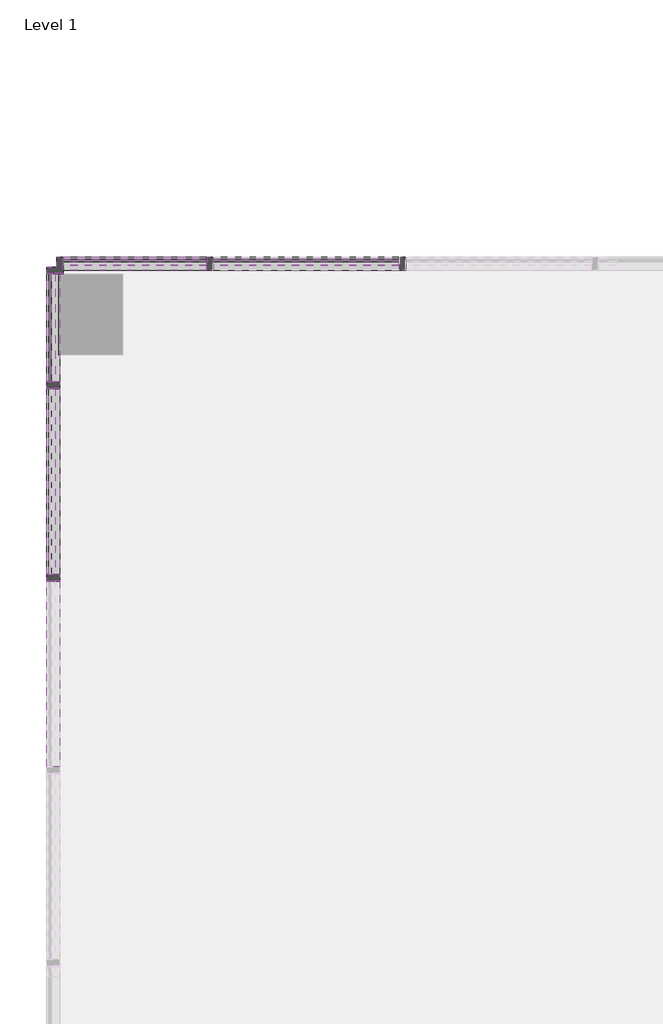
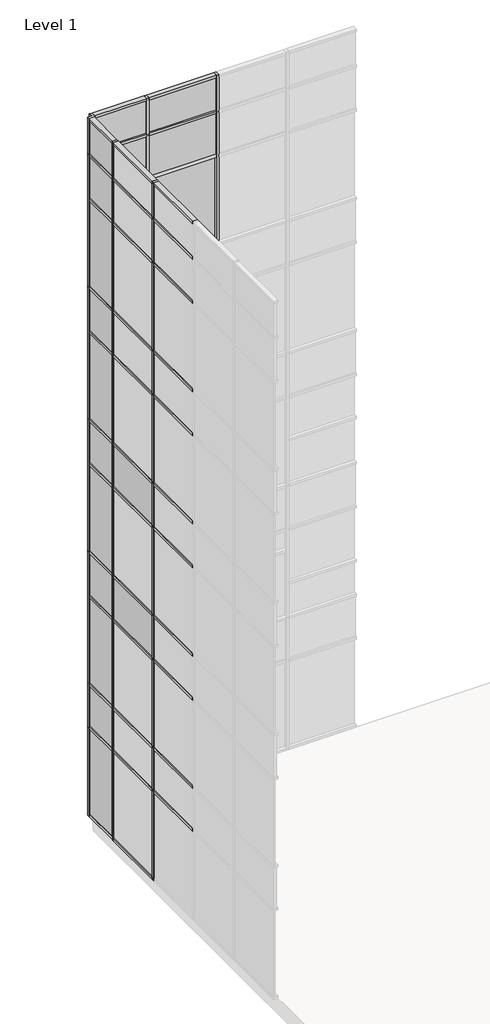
# One storey, part 10 of 23: 86 members, 36 plates.
"""IFC4 building model written with IfcOpenShell, lengths in millimetres."""

from ifc_helpers import new_model, si_unit, origin, place, context, project, spatial, transform, mapped, element, save
from components import member_2b49869a, member_f92b8aa2, member_810865a4, member_f0fea5a5, member_6d5c3e5e, member_9764dd38, member_79ceace6, member_b5f2627a, member_2a656dd3, member_4a582d1b, member_69e02c7a, member_ea83204a, member_2d9278dd, member_12374bc9, system_panel_glazed_14c75400, system_panel_glazed_7d142148, system_panel_glazed_725bf07f, system_panel_glazed_cda0cb40, system_panel_glazed_3870392c, system_panel_solid_5dfe6f83, system_panel_solid_e25e2004, system_panel_solid_b7551183, system_panel_solid_743f3f24, system_panel_solid_cf5446f1, system_panel_solid_9f856546, system_panel_solid_5118485c, system_panel_solid_8dfd6666, system_panel_solid_bf438204

model = new_model("IFC4")

# Units and contexts
model_context = context("Model", 3, world=origin())
ifc_project = project(units=[si_unit("LENGTHUNIT", "METRE", prefix="MILLI")], contexts=[model_context])

# Site, building, storey
site = spatial("IfcSite", under=ifc_project)
building = spatial("IfcBuilding", under=site)
storey = spatial("IfcBuildingStorey", under=building, Name="Level 1", Elevation=0.0)

# Members
placement = place(None, origin())
member_shape = member_2b49869a(model_context)
element("IfcMember", 1, ObjectType="Rectangular Mullion : 2.5\" x 5\" rectangular", at=placement, inside=storey, context=model_context, shape_type="MappedRepresentation", body=[
    mapped(member_shape, transform((-65405.8623649, 10017.7896508, 2438.4), x_axis=(1.0, 0.0, 0.0), y_axis=(0.0, -1.0, 0.0), z_axis=(0.0, 0.0, -1.0))),
])
element("IfcMember", 2, ObjectType="Rectangular Mullion : 2.5\" x 5\" rectangular", at=placement, inside=storey, context=model_context, shape_type="MappedRepresentation", body=[
    mapped(member_shape, transform((-67234.6623649, 10017.7896508, 2438.4), x_axis=(1.0, 0.0, 0.0), y_axis=(0.0, -1.0, 0.0), z_axis=(0.0, 0.0, -1.0))),
])
member_2_shape = member_f92b8aa2(model_context)
element("IfcMember", 3, ObjectType="Rectangular Mullion : 2.5\" x 5\" rectangular", at=placement, inside=storey, context=model_context, shape_type="MappedRepresentation", body=[
    mapped(member_2_shape, transform((-65405.8623649, 10017.7896508, 18288.0), x_axis=(1.0, 0.0, 0.0), y_axis=(0.0, -1.0, 0.0), z_axis=(0.0, 0.0, -1.0))),
])
element("IfcMember", 4, ObjectType="Rectangular Mullion : 2.5\" x 5\" rectangular", at=placement, inside=storey, context=model_context, shape_type="MappedRepresentation", body=[
    mapped(member_2_shape, transform((-67234.6623649, 10017.7896508, 18288.0), x_axis=(1.0, 0.0, 0.0), y_axis=(0.0, -1.0, 0.0), z_axis=(0.0, 0.0, -1.0))),
])
element("IfcMember", 5, ObjectType="Rectangular Mullion : 2.5\" x 5\" rectangular", at=placement, inside=storey, context=model_context, shape_type="MappedRepresentation", body=[
    mapped(member_2_shape, transform((-68724.2599961, 7033.2896508, 18288.0), x_axis=(0.0, 1.0, 0.0), y_axis=(1.0, 0.0, 0.0), z_axis=(0.0, 0.0, -1.0))),
])
element("IfcMember", 6, ObjectType="Rectangular Mullion : 2.5\" x 5\" rectangular", at=placement, inside=storey, context=model_context, shape_type="MappedRepresentation", body=[
    mapped(member_2_shape, transform((-68724.2599961, 8862.0896508, 18288.0), x_axis=(0.0, 1.0, 0.0), y_axis=(1.0, 0.0, 0.0), z_axis=(0.0, 0.0, -1.0))),
])
member_3_shape = member_810865a4(model_context)
element("IfcMember", 7, ObjectType="Rectangular Mullion : 2.5\" x 5\" rectangular", at=placement, inside=storey, context=model_context, shape_type="MappedRepresentation", body=[
    mapped(member_3_shape, transform((-65405.8623649, 10017.7896508, 14630.4), x_axis=(1.0, 0.0, 0.0), y_axis=(0.0, -1.0, 0.0), z_axis=(0.0, 0.0, -1.0))),
])
element("IfcMember", 8, ObjectType="Rectangular Mullion : 2.5\" x 5\" rectangular", at=placement, inside=storey, context=model_context, shape_type="MappedRepresentation", body=[
    mapped(member_3_shape, transform((-65405.8623649, 10017.7896508, 10972.8), x_axis=(1.0, 0.0, 0.0), y_axis=(0.0, -1.0, 0.0), z_axis=(0.0, 0.0, -1.0))),
])
element("IfcMember", 9, ObjectType="Rectangular Mullion : 2.5\" x 5\" rectangular", at=placement, inside=storey, context=model_context, shape_type="MappedRepresentation", body=[
    mapped(member_3_shape, transform((-65405.8623649, 10017.7896508, 7315.2), x_axis=(1.0, 0.0, 0.0), y_axis=(0.0, -1.0, 0.0), z_axis=(0.0, 0.0, -1.0))),
])
element("IfcMember", 10, ObjectType="Rectangular Mullion : 2.5\" x 5\" rectangular", at=placement, inside=storey, context=model_context, shape_type="MappedRepresentation", body=[
    mapped(member_3_shape, transform((-65405.8623649, 10017.7896508, 3657.6), x_axis=(1.0, 0.0, 0.0), y_axis=(0.0, -1.0, 0.0), z_axis=(0.0, 0.0, -1.0))),
])
element("IfcMember", 11, ObjectType="Rectangular Mullion : 2.5\" x 5\" rectangular", at=placement, inside=storey, context=model_context, shape_type="MappedRepresentation", body=[
    mapped(member_3_shape, transform((-67234.6623649, 10017.7896508, 14630.4), x_axis=(1.0, 0.0, 0.0), y_axis=(0.0, -1.0, 0.0), z_axis=(0.0, 0.0, -1.0))),
])
element("IfcMember", 12, ObjectType="Rectangular Mullion : 2.5\" x 5\" rectangular", at=placement, inside=storey, context=model_context, shape_type="MappedRepresentation", body=[
    mapped(member_3_shape, transform((-67234.6623649, 10017.7896508, 10972.8), x_axis=(1.0, 0.0, 0.0), y_axis=(0.0, -1.0, 0.0), z_axis=(0.0, 0.0, -1.0))),
])
element("IfcMember", 13, ObjectType="Rectangular Mullion : 2.5\" x 5\" rectangular", at=placement, inside=storey, context=model_context, shape_type="MappedRepresentation", body=[
    mapped(member_3_shape, transform((-67234.6623649, 10017.7896508, 7315.2), x_axis=(1.0, 0.0, 0.0), y_axis=(0.0, -1.0, 0.0), z_axis=(0.0, 0.0, -1.0))),
])
element("IfcMember", 14, ObjectType="Rectangular Mullion : 2.5\" x 5\" rectangular", at=placement, inside=storey, context=model_context, shape_type="MappedRepresentation", body=[
    mapped(member_3_shape, transform((-67234.6623649, 10017.7896508, 3657.6), x_axis=(1.0, 0.0, 0.0), y_axis=(0.0, -1.0, 0.0), z_axis=(0.0, 0.0, -1.0))),
])
element("IfcMember", 15, ObjectType="Rectangular Mullion : 2.5\" x 5\" rectangular", at=placement, inside=storey, context=model_context, shape_type="MappedRepresentation", body=[
    mapped(member_3_shape, transform((-68724.2599961, 7033.2896508, 3657.6), x_axis=(0.0, 1.0, 0.0), y_axis=(1.0, 0.0, 0.0), z_axis=(0.0, 0.0, -1.0))),
])
element("IfcMember", 16, ObjectType="Rectangular Mullion : 2.5\" x 5\" rectangular", at=placement, inside=storey, context=model_context, shape_type="MappedRepresentation", body=[
    mapped(member_3_shape, transform((-68724.2599961, 8862.0896508, 3657.6), x_axis=(0.0, 1.0, 0.0), y_axis=(1.0, 0.0, 0.0), z_axis=(0.0, 0.0, -1.0))),
])
element("IfcMember", 17, ObjectType="Rectangular Mullion : 2.5\" x 5\" rectangular", at=placement, inside=storey, context=model_context, shape_type="MappedRepresentation", body=[
    mapped(member_3_shape, transform((-68724.2599961, 7033.2896508, 7315.2), x_axis=(0.0, 1.0, 0.0), y_axis=(1.0, 0.0, 0.0), z_axis=(0.0, 0.0, -1.0))),
])
element("IfcMember", 18, ObjectType="Rectangular Mullion : 2.5\" x 5\" rectangular", at=placement, inside=storey, context=model_context, shape_type="MappedRepresentation", body=[
    mapped(member_3_shape, transform((-68724.2599961, 8862.0896508, 7315.2), x_axis=(0.0, 1.0, 0.0), y_axis=(1.0, 0.0, 0.0), z_axis=(0.0, 0.0, -1.0))),
])
element("IfcMember", 19, ObjectType="Rectangular Mullion : 2.5\" x 5\" rectangular", at=placement, inside=storey, context=model_context, shape_type="MappedRepresentation", body=[
    mapped(member_3_shape, transform((-68724.2599961, 7033.2896508, 10972.8), x_axis=(0.0, 1.0, 0.0), y_axis=(1.0, 0.0, 0.0), z_axis=(0.0, 0.0, -1.0))),
])
element("IfcMember", 20, ObjectType="Rectangular Mullion : 2.5\" x 5\" rectangular", at=placement, inside=storey, context=model_context, shape_type="MappedRepresentation", body=[
    mapped(member_3_shape, transform((-68724.2599961, 8862.0896508, 10972.8), x_axis=(0.0, 1.0, 0.0), y_axis=(1.0, 0.0, 0.0), z_axis=(0.0, 0.0, -1.0))),
])
element("IfcMember", 21, ObjectType="Rectangular Mullion : 2.5\" x 5\" rectangular", at=placement, inside=storey, context=model_context, shape_type="MappedRepresentation", body=[
    mapped(member_3_shape, transform((-68724.2599961, 7033.2896508, 14630.4), x_axis=(0.0, 1.0, 0.0), y_axis=(1.0, 0.0, 0.0), z_axis=(0.0, 0.0, -1.0))),
])
element("IfcMember", 22, ObjectType="Rectangular Mullion : 2.5\" x 5\" rectangular", at=placement, inside=storey, context=model_context, shape_type="MappedRepresentation", body=[
    mapped(member_3_shape, transform((-68724.2599961, 8862.0896508, 14630.4), x_axis=(0.0, 1.0, 0.0), y_axis=(1.0, 0.0, 0.0), z_axis=(0.0, 0.0, -1.0))),
])
member_4_shape = member_f0fea5a5(model_context)
element("IfcMember", 23, ObjectType="Rectangular Mullion : 2.5\" x 5\" rectangular", at=placement, inside=storey, context=model_context, shape_type="MappedRepresentation", body=[
    mapped(member_4_shape, transform((-65405.8623649, 10017.7896508, 0.0), x_axis=(1.0, 0.0, 0.0), y_axis=(0.0, -1.0, 0.0), z_axis=(0.0, 0.0, -1.0))),
])
element("IfcMember", 24, ObjectType="Rectangular Mullion : 2.5\" x 5\" rectangular", at=placement, inside=storey, context=model_context, shape_type="MappedRepresentation", body=[
    mapped(member_4_shape, transform((-67234.6623649, 10017.7896508, 0.0), x_axis=(1.0, 0.0, 0.0), y_axis=(0.0, -1.0, 0.0), z_axis=(0.0, 0.0, -1.0))),
])
member_5_shape = member_6d5c3e5e(model_context)
element("IfcMember", 25, ObjectType="Rectangular Mullion : 2.5\" x 5\" rectangular", at=placement, inside=storey, context=model_context, shape_type="MappedRepresentation", body=[
    mapped(member_5_shape, transform((-65437.6123649, 10017.7896508, 19304.0), x_axis=(0.0, 0.0, 1.0), y_axis=(0.0, -1.0, 0.0), z_axis=(1.0, 0.0, 0.0))),
])
element("IfcMember", 26, ObjectType="Rectangular Mullion : 2.5\" x 5\" rectangular", at=placement, inside=storey, context=model_context, shape_type="MappedRepresentation", body=[
    mapped(member_5_shape, transform((-68724.2599961, 7001.5396508, 19304.0), x_axis=(0.0, 0.0, 1.0), y_axis=(1.0, 0.0, 0.0), z_axis=(0.0, 1.0, 0.0))),
])
element("IfcMember", 27, ObjectType="Rectangular Mullion : 2.5\" x 5\" rectangular", at=placement, inside=storey, context=model_context, shape_type="MappedRepresentation", body=[
    mapped(member_5_shape, transform((-68724.2599961, 8830.3396508, 19304.0), x_axis=(0.0, 0.0, 1.0), y_axis=(1.0, 0.0, 0.0), z_axis=(0.0, 1.0, 0.0))),
])
member_6_shape = member_9764dd38(model_context)
element("IfcMember", 28, ObjectType="Rectangular Mullion : 2.5\" x 5\" rectangular", at=placement, inside=storey, context=model_context, shape_type="MappedRepresentation", body=[
    mapped(member_6_shape, transform((-68724.2599961, 8830.3396508, 17068.8), x_axis=(0.0, 0.0, 1.0), y_axis=(1.0, 0.0, 0.0), z_axis=(0.0, 1.0, 0.0))),
])
element("IfcMember", 29, ObjectType="Rectangular Mullion : 2.5\" x 5\" rectangular", at=placement, inside=storey, context=model_context, shape_type="MappedRepresentation", body=[
    mapped(member_6_shape, transform((-68724.2599961, 7001.5396508, 17068.8), x_axis=(0.0, 0.0, 1.0), y_axis=(1.0, 0.0, 0.0), z_axis=(0.0, 1.0, 0.0))),
])
element("IfcMember", 30, ObjectType="Rectangular Mullion : 2.5\" x 5\" rectangular", at=placement, inside=storey, context=model_context, shape_type="MappedRepresentation", body=[
    mapped(member_6_shape, transform((-68724.2599961, 8830.3396508, 13411.2), x_axis=(0.0, 0.0, 1.0), y_axis=(1.0, 0.0, 0.0), z_axis=(0.0, 1.0, 0.0))),
])
element("IfcMember", 31, ObjectType="Rectangular Mullion : 2.5\" x 5\" rectangular", at=placement, inside=storey, context=model_context, shape_type="MappedRepresentation", body=[
    mapped(member_6_shape, transform((-68724.2599961, 7001.5396508, 13411.2), x_axis=(0.0, 0.0, 1.0), y_axis=(1.0, 0.0, 0.0), z_axis=(0.0, 1.0, 0.0))),
])
element("IfcMember", 32, ObjectType="Rectangular Mullion : 2.5\" x 5\" rectangular", at=placement, inside=storey, context=model_context, shape_type="MappedRepresentation", body=[
    mapped(member_6_shape, transform((-68724.2599961, 8830.3396508, 9753.6), x_axis=(0.0, 0.0, 1.0), y_axis=(1.0, 0.0, 0.0), z_axis=(0.0, 1.0, 0.0))),
])
element("IfcMember", 33, ObjectType="Rectangular Mullion : 2.5\" x 5\" rectangular", at=placement, inside=storey, context=model_context, shape_type="MappedRepresentation", body=[
    mapped(member_6_shape, transform((-68724.2599961, 7001.5396508, 9753.6), x_axis=(0.0, 0.0, 1.0), y_axis=(1.0, 0.0, 0.0), z_axis=(0.0, 1.0, 0.0))),
])
element("IfcMember", 34, ObjectType="Rectangular Mullion : 2.5\" x 5\" rectangular", at=placement, inside=storey, context=model_context, shape_type="MappedRepresentation", body=[
    mapped(member_6_shape, transform((-68724.2599961, 8830.3396508, 6096.0), x_axis=(0.0, 0.0, 1.0), y_axis=(1.0, 0.0, 0.0), z_axis=(0.0, 1.0, 0.0))),
])
element("IfcMember", 35, ObjectType="Rectangular Mullion : 2.5\" x 5\" rectangular", at=placement, inside=storey, context=model_context, shape_type="MappedRepresentation", body=[
    mapped(member_6_shape, transform((-68724.2599961, 7001.5396508, 6096.0), x_axis=(0.0, 0.0, 1.0), y_axis=(1.0, 0.0, 0.0), z_axis=(0.0, 1.0, 0.0))),
])
element("IfcMember", 36, ObjectType="Rectangular Mullion : 2.5\" x 5\" rectangular", at=placement, inside=storey, context=model_context, shape_type="MappedRepresentation", body=[
    mapped(member_6_shape, transform((-68724.2599961, 8830.3396508, 2470.15), x_axis=(0.0, 0.0, 1.0), y_axis=(1.0, 0.0, 0.0), z_axis=(0.0, 1.0, 0.0))),
])
element("IfcMember", 37, ObjectType="Rectangular Mullion : 2.5\" x 5\" rectangular", at=placement, inside=storey, context=model_context, shape_type="MappedRepresentation", body=[
    mapped(member_6_shape, transform((-68724.2599961, 7001.5396508, 2470.15), x_axis=(0.0, 0.0, 1.0), y_axis=(1.0, 0.0, 0.0), z_axis=(0.0, 1.0, 0.0))),
])
element("IfcMember", 38, ObjectType="Rectangular Mullion : 2.5\" x 5\" rectangular", at=placement, inside=storey, context=model_context, shape_type="MappedRepresentation", body=[
    mapped(member_3_shape, transform((-68724.2599961, 7033.2896508, 0.0), x_axis=(0.0, 1.0, 0.0), y_axis=(1.0, 0.0, 0.0), z_axis=(0.0, 0.0, -1.0))),
])
element("IfcMember", 39, ObjectType="Rectangular Mullion : 2.5\" x 5\" rectangular", at=placement, inside=storey, context=model_context, shape_type="MappedRepresentation", body=[
    mapped(member_3_shape, transform((-68724.2599961, 8862.0896508, 0.0), x_axis=(0.0, 1.0, 0.0), y_axis=(1.0, 0.0, 0.0), z_axis=(0.0, 0.0, -1.0))),
])
element("IfcMember", 40, ObjectType="Rectangular Mullion : 2.5\" x 5\" rectangular", at=placement, inside=storey, context=model_context, shape_type="MappedRepresentation", body=[
    mapped(member_5_shape, transform((-67202.9123649, 10017.7896508, 0.0), x_axis=(0.0, 0.0, -1.0), y_axis=(0.0, -1.0, 0.0), z_axis=(-1.0, 0.0, 0.0))),
])
element("IfcMember", 41, ObjectType="Rectangular Mullion : 2.5\" x 5\" rectangular", at=placement, inside=storey, context=model_context, shape_type="MappedRepresentation", body=[
    mapped(member_5_shape, transform((-68724.2599961, 7065.0396508, 0.0), x_axis=(0.0, 0.0, -1.0), y_axis=(1.0, 0.0, 0.0), z_axis=(0.0, -1.0, 0.0))),
])
element("IfcMember", 42, ObjectType="Rectangular Mullion : 2.5\" x 5\" rectangular", at=placement, inside=storey, context=model_context, shape_type="MappedRepresentation", body=[
    mapped(member_6_shape, transform((-65437.6123649, 10017.7896508, 10972.8), x_axis=(0.0, 0.0, 1.0), y_axis=(0.0, -1.0, 0.0), z_axis=(1.0, 0.0, 0.0))),
])
element("IfcMember", 43, ObjectType="Rectangular Mullion : 2.5\" x 5\" rectangular", at=placement, inside=storey, context=model_context, shape_type="MappedRepresentation", body=[
    mapped(member_6_shape, transform((-65437.6123649, 10017.7896508, 7315.2), x_axis=(0.0, 0.0, 1.0), y_axis=(0.0, -1.0, 0.0), z_axis=(1.0, 0.0, 0.0))),
])
element("IfcMember", 44, ObjectType="Rectangular Mullion : 2.5\" x 5\" rectangular", at=placement, inside=storey, context=model_context, shape_type="MappedRepresentation", body=[
    mapped(member_6_shape, transform((-65437.6123649, 10017.7896508, 18288.0), x_axis=(0.0, 0.0, 1.0), y_axis=(0.0, -1.0, 0.0), z_axis=(1.0, 0.0, 0.0))),
])
element("IfcMember", 45, ObjectType="Rectangular Mullion : 2.5\" x 5\" rectangular", at=placement, inside=storey, context=model_context, shape_type="MappedRepresentation", body=[
    mapped(member_6_shape, transform((-65437.6123649, 10017.7896508, 14630.4), x_axis=(0.0, 0.0, 1.0), y_axis=(0.0, -1.0, 0.0), z_axis=(1.0, 0.0, 0.0))),
])
element("IfcMember", 46, ObjectType="Rectangular Mullion : 2.5\" x 5\" rectangular", at=placement, inside=storey, context=model_context, shape_type="MappedRepresentation", body=[
    mapped(member_6_shape, transform((-68724.2599961, 7001.5396508, 3657.6), x_axis=(0.0, 0.0, 1.0), y_axis=(1.0, 0.0, 0.0), z_axis=(0.0, 1.0, 0.0))),
])
element("IfcMember", 47, ObjectType="Rectangular Mullion : 2.5\" x 5\" rectangular", at=placement, inside=storey, context=model_context, shape_type="MappedRepresentation", body=[
    mapped(member_6_shape, transform((-68724.2599961, 8830.3396508, 3657.6), x_axis=(0.0, 0.0, 1.0), y_axis=(1.0, 0.0, 0.0), z_axis=(0.0, 1.0, 0.0))),
])
element("IfcMember", 48, ObjectType="Rectangular Mullion : 2.5\" x 5\" rectangular", at=placement, inside=storey, context=model_context, shape_type="MappedRepresentation", body=[
    mapped(member_6_shape, transform((-68724.2599961, 7001.5396508, 7315.2), x_axis=(0.0, 0.0, 1.0), y_axis=(1.0, 0.0, 0.0), z_axis=(0.0, 1.0, 0.0))),
])
element("IfcMember", 49, ObjectType="Rectangular Mullion : 2.5\" x 5\" rectangular", at=placement, inside=storey, context=model_context, shape_type="MappedRepresentation", body=[
    mapped(member_6_shape, transform((-68724.2599961, 8830.3396508, 7315.2), x_axis=(0.0, 0.0, 1.0), y_axis=(1.0, 0.0, 0.0), z_axis=(0.0, 1.0, 0.0))),
])
element("IfcMember", 50, ObjectType="Rectangular Mullion : 2.5\" x 5\" rectangular", at=placement, inside=storey, context=model_context, shape_type="MappedRepresentation", body=[
    mapped(member_6_shape, transform((-68724.2599961, 7001.5396508, 10972.8), x_axis=(0.0, 0.0, 1.0), y_axis=(1.0, 0.0, 0.0), z_axis=(0.0, 1.0, 0.0))),
])
element("IfcMember", 51, ObjectType="Rectangular Mullion : 2.5\" x 5\" rectangular", at=placement, inside=storey, context=model_context, shape_type="MappedRepresentation", body=[
    mapped(member_6_shape, transform((-68724.2599961, 8830.3396508, 10972.8), x_axis=(0.0, 0.0, 1.0), y_axis=(1.0, 0.0, 0.0), z_axis=(0.0, 1.0, 0.0))),
])
element("IfcMember", 52, ObjectType="Rectangular Mullion : 2.5\" x 5\" rectangular", at=placement, inside=storey, context=model_context, shape_type="MappedRepresentation", body=[
    mapped(member_6_shape, transform((-68724.2599961, 7001.5396508, 14630.4), x_axis=(0.0, 0.0, 1.0), y_axis=(1.0, 0.0, 0.0), z_axis=(0.0, 1.0, 0.0))),
])
element("IfcMember", 53, ObjectType="Rectangular Mullion : 2.5\" x 5\" rectangular", at=placement, inside=storey, context=model_context, shape_type="MappedRepresentation", body=[
    mapped(member_6_shape, transform((-68724.2599961, 8830.3396508, 14630.4), x_axis=(0.0, 0.0, 1.0), y_axis=(1.0, 0.0, 0.0), z_axis=(0.0, 1.0, 0.0))),
])
element("IfcMember", 54, ObjectType="Rectangular Mullion : 2.5\" x 5\" rectangular", at=placement, inside=storey, context=model_context, shape_type="MappedRepresentation", body=[
    mapped(member_6_shape, transform((-68724.2599961, 7001.5396508, 18288.0), x_axis=(0.0, 0.0, 1.0), y_axis=(1.0, 0.0, 0.0), z_axis=(0.0, 1.0, 0.0))),
])
element("IfcMember", 55, ObjectType="Rectangular Mullion : 2.5\" x 5\" rectangular", at=placement, inside=storey, context=model_context, shape_type="MappedRepresentation", body=[
    mapped(member_6_shape, transform((-68724.2599961, 8830.3396508, 18288.0), x_axis=(0.0, 0.0, 1.0), y_axis=(1.0, 0.0, 0.0), z_axis=(0.0, 1.0, 0.0))),
])
member_7_shape = member_79ceace6(model_context)
element("IfcMember", 56, ObjectType="Rectangular Mullion : 2.5\" x 5\" rectangular", at=placement, inside=storey, context=model_context, shape_type="MappedRepresentation", body=[
    mapped(member_7_shape, transform((-68724.2599961, 9922.5396508, 19304.0), x_axis=(0.0, 0.0, 1.0), y_axis=(1.0, 0.0, 0.0), z_axis=(0.0, 1.0, 0.0))),
])
element("IfcMember", 57, ObjectType="Rectangular Mullion : 2.5\" x 5\" rectangular", at=placement, inside=storey, context=model_context, shape_type="MappedRepresentation", body=[
    mapped(member_7_shape, transform((-68724.2599961, 8893.8396508, 0.0), x_axis=(0.0, 0.0, -1.0), y_axis=(1.0, 0.0, 0.0), z_axis=(0.0, -1.0, 0.0))),
])
member_8_shape = member_b5f2627a(model_context)
element("IfcMember", 58, ObjectType="Rectangular Mullion : 2.5\" x 5\" rectangular", at=placement, inside=storey, context=model_context, shape_type="MappedRepresentation", body=[
    mapped(member_8_shape, transform((-68724.2599961, 9922.5396508, 3657.6), x_axis=(0.0, 0.0, 1.0), y_axis=(1.0, 0.0, 0.0), z_axis=(0.0, 1.0, 0.0))),
])
element("IfcMember", 59, ObjectType="Rectangular Mullion : 2.5\" x 5\" rectangular", at=placement, inside=storey, context=model_context, shape_type="MappedRepresentation", body=[
    mapped(member_8_shape, transform((-68724.2599961, 9922.5396508, 7315.2), x_axis=(0.0, 0.0, 1.0), y_axis=(1.0, 0.0, 0.0), z_axis=(0.0, 1.0, 0.0))),
])
element("IfcMember", 60, ObjectType="Rectangular Mullion : 2.5\" x 5\" rectangular", at=placement, inside=storey, context=model_context, shape_type="MappedRepresentation", body=[
    mapped(member_8_shape, transform((-68724.2599961, 9922.5396508, 10972.8), x_axis=(0.0, 0.0, 1.0), y_axis=(1.0, 0.0, 0.0), z_axis=(0.0, 1.0, 0.0))),
])
element("IfcMember", 61, ObjectType="Rectangular Mullion : 2.5\" x 5\" rectangular", at=placement, inside=storey, context=model_context, shape_type="MappedRepresentation", body=[
    mapped(member_8_shape, transform((-68724.2599961, 9922.5396508, 14630.4), x_axis=(0.0, 0.0, 1.0), y_axis=(1.0, 0.0, 0.0), z_axis=(0.0, 1.0, 0.0))),
])
element("IfcMember", 62, ObjectType="Rectangular Mullion : 2.5\" x 5\" rectangular", at=placement, inside=storey, context=model_context, shape_type="MappedRepresentation", body=[
    mapped(member_8_shape, transform((-68724.2599961, 9922.5396508, 18288.0), x_axis=(0.0, 0.0, 1.0), y_axis=(1.0, 0.0, 0.0), z_axis=(0.0, 1.0, 0.0))),
])
element("IfcMember", 63, ObjectType="Rectangular Mullion : 2.5\" x 5\" rectangular", at=placement, inside=storey, context=model_context, shape_type="MappedRepresentation", body=[
    mapped(member_8_shape, transform((-68724.2599961, 9922.5396508, 17068.8), x_axis=(0.0, 0.0, 1.0), y_axis=(1.0, 0.0, 0.0), z_axis=(0.0, 1.0, 0.0))),
])
element("IfcMember", 64, ObjectType="Rectangular Mullion : 2.5\" x 5\" rectangular", at=placement, inside=storey, context=model_context, shape_type="MappedRepresentation", body=[
    mapped(member_8_shape, transform((-68724.2599961, 9922.5396508, 13411.2), x_axis=(0.0, 0.0, 1.0), y_axis=(1.0, 0.0, 0.0), z_axis=(0.0, 1.0, 0.0))),
])
element("IfcMember", 65, ObjectType="Rectangular Mullion : 2.5\" x 5\" rectangular", at=placement, inside=storey, context=model_context, shape_type="MappedRepresentation", body=[
    mapped(member_8_shape, transform((-68724.2599961, 9922.5396508, 9753.6), x_axis=(0.0, 0.0, 1.0), y_axis=(1.0, 0.0, 0.0), z_axis=(0.0, 1.0, 0.0))),
])
element("IfcMember", 66, ObjectType="Rectangular Mullion : 2.5\" x 5\" rectangular", at=placement, inside=storey, context=model_context, shape_type="MappedRepresentation", body=[
    mapped(member_8_shape, transform((-68724.2599961, 9922.5396508, 6096.0), x_axis=(0.0, 0.0, 1.0), y_axis=(1.0, 0.0, 0.0), z_axis=(0.0, 1.0, 0.0))),
])
element("IfcMember", 67, ObjectType="Rectangular Mullion : 2.5\" x 5\" rectangular", at=placement, inside=storey, context=model_context, shape_type="MappedRepresentation", body=[
    mapped(member_8_shape, transform((-68724.2599961, 9922.5396508, 2470.15), x_axis=(0.0, 0.0, 1.0), y_axis=(1.0, 0.0, 0.0), z_axis=(0.0, 1.0, 0.0))),
])
member_9_shape = member_2a656dd3(model_context)
element("IfcMember", 68, ObjectType="Rectangular Mullion : 2.5\" x 5\" rectangular", at=placement, inside=storey, context=model_context, shape_type="MappedRepresentation", body=[
    mapped(member_9_shape, transform((-68629.0099961, 10017.7896508, 0.0), x_axis=(0.0, 0.0, -1.0), y_axis=(0.0, -1.0, 0.0), z_axis=(-1.0, 0.0, 0.0))),
])
member_10_shape = member_4a582d1b(model_context)
element("IfcMember", 69, ObjectType="Rectangular Mullion : 2.5\" x 5\" rectangular", at=placement, inside=storey, context=model_context, shape_type="MappedRepresentation", body=[
    mapped(member_10_shape, transform((-67266.4123649, 10017.7896508, 10972.8), x_axis=(0.0, 0.0, 1.0), y_axis=(0.0, -1.0, 0.0), z_axis=(1.0, 0.0, 0.0))),
])
element("IfcMember", 70, ObjectType="Rectangular Mullion : 2.5\" x 5\" rectangular", at=placement, inside=storey, context=model_context, shape_type="MappedRepresentation", body=[
    mapped(member_10_shape, transform((-67266.4123649, 10017.7896508, 14630.4), x_axis=(0.0, 0.0, 1.0), y_axis=(0.0, -1.0, 0.0), z_axis=(1.0, 0.0, 0.0))),
])
element("IfcMember", 71, ObjectType="Rectangular Mullion : 2.5\" x 5\" rectangular", at=placement, inside=storey, context=model_context, shape_type="MappedRepresentation", body=[
    mapped(member_10_shape, transform((-67266.4123649, 10017.7896508, 7315.2), x_axis=(0.0, 0.0, 1.0), y_axis=(0.0, -1.0, 0.0), z_axis=(1.0, 0.0, 0.0))),
])
element("IfcMember", 72, ObjectType="Rectangular Mullion : 2.5\" x 5\" rectangular", at=placement, inside=storey, context=model_context, shape_type="MappedRepresentation", body=[
    mapped(member_10_shape, transform((-67266.4123649, 10017.7896508, 18288.0), x_axis=(0.0, 0.0, 1.0), y_axis=(0.0, -1.0, 0.0), z_axis=(1.0, 0.0, 0.0))),
])
element("IfcMember", 73, ObjectType="Rectangular Mullion : 2.5\" x 5\" rectangular", at=placement, inside=storey, context=model_context, shape_type="MappedRepresentation", body=[
    mapped(member_10_shape, transform((-67266.4123649, 10017.7896508, 3657.6), x_axis=(0.0, 0.0, 1.0), y_axis=(0.0, -1.0, 0.0), z_axis=(1.0, 0.0, 0.0))),
])
element("IfcMember", 74, ObjectType="Rectangular Mullion : 2.5\" x 5\" rectangular", at=placement, inside=storey, context=model_context, shape_type="MappedRepresentation", body=[
    mapped(member_9_shape, transform((-67266.4123649, 10017.7896508, 19304.0), x_axis=(0.0, 0.0, 1.0), y_axis=(0.0, -1.0, 0.0), z_axis=(1.0, 0.0, 0.0))),
])
element("IfcMember", 75, ObjectType="Rectangular Mullion : 2.5\" x 5\" rectangular", at=placement, inside=storey, context=model_context, shape_type="MappedRepresentation", body=[
    mapped(member_10_shape, transform((-67266.4123649, 10017.7896508, 17068.8), x_axis=(0.0, 0.0, 1.0), y_axis=(0.0, -1.0, 0.0), z_axis=(1.0, 0.0, 0.0))),
])
element("IfcMember", 76, ObjectType="Rectangular Mullion : 2.5\" x 5\" rectangular", at=placement, inside=storey, context=model_context, shape_type="MappedRepresentation", body=[
    mapped(member_10_shape, transform((-67266.4123649, 10017.7896508, 13411.2), x_axis=(0.0, 0.0, 1.0), y_axis=(0.0, -1.0, 0.0), z_axis=(1.0, 0.0, 0.0))),
])
element("IfcMember", 77, ObjectType="Rectangular Mullion : 2.5\" x 5\" rectangular", at=placement, inside=storey, context=model_context, shape_type="MappedRepresentation", body=[
    mapped(member_10_shape, transform((-67266.4123649, 10017.7896508, 9753.6), x_axis=(0.0, 0.0, 1.0), y_axis=(0.0, -1.0, 0.0), z_axis=(1.0, 0.0, 0.0))),
])
element("IfcMember", 78, ObjectType="Rectangular Mullion : 2.5\" x 5\" rectangular", at=placement, inside=storey, context=model_context, shape_type="MappedRepresentation", body=[
    mapped(member_10_shape, transform((-67266.4123649, 10017.7896508, 6096.0), x_axis=(0.0, 0.0, 1.0), y_axis=(0.0, -1.0, 0.0), z_axis=(1.0, 0.0, 0.0))),
])
element("IfcMember", 79, ObjectType="Rectangular Mullion : 2.5\" x 5\" rectangular", at=placement, inside=storey, context=model_context, shape_type="MappedRepresentation", body=[
    mapped(member_10_shape, transform((-67266.4123649, 10017.7896508, 2470.15), x_axis=(0.0, 0.0, 1.0), y_axis=(0.0, -1.0, 0.0), z_axis=(1.0, 0.0, 0.0))),
])
member_11_shape = member_69e02c7a(model_context)
element("IfcMember", 80, ObjectType="V Corner Mullion : 5\" V Corner", at=placement, inside=storey, context=model_context, shape_type="MappedRepresentation", body=[
    mapped(member_11_shape, transform((-68724.2599961, 10017.7896508, 19304.0), x_axis=(-1.0, 0.0, 0.0), y_axis=(0.0, -1.0, 0.0), z_axis=(0.0, 0.0, 1.0))),
])
member_12_shape = member_ea83204a(model_context)
element("IfcMember", 81, ObjectType="V Corner Mullion : 5\" V Corner", at=placement, inside=storey, context=model_context, shape_type="MappedRepresentation", body=[
    mapped(member_12_shape, transform((-68724.2599961, 10017.7896508, 2438.4), x_axis=(-1.0, 0.0, 0.0), y_axis=(0.0, -1.0, 0.0), z_axis=(0.0, 0.0, 1.0))),
])
member_13_shape = member_2d9278dd(model_context)
element("IfcMember", 82, ObjectType="V Corner Mullion : 5\" V Corner", at=placement, inside=storey, context=model_context, shape_type="MappedRepresentation", body=[
    mapped(member_13_shape, transform((-68724.2599961, 10017.7896508, 18288.0), x_axis=(-1.0, 0.0, 0.0), y_axis=(0.0, -1.0, 0.0), z_axis=(0.0, 0.0, 1.0))),
])
element("IfcMember", 83, ObjectType="V Corner Mullion : 5\" V Corner", at=placement, inside=storey, context=model_context, shape_type="MappedRepresentation", body=[
    mapped(member_13_shape, transform((-68724.2599961, 10017.7896508, 14630.4), x_axis=(-1.0, 0.0, 0.0), y_axis=(0.0, -1.0, 0.0), z_axis=(0.0, 0.0, 1.0))),
])
element("IfcMember", 84, ObjectType="V Corner Mullion : 5\" V Corner", at=placement, inside=storey, context=model_context, shape_type="MappedRepresentation", body=[
    mapped(member_13_shape, transform((-68724.2599961, 10017.7896508, 10972.8), x_axis=(-1.0, 0.0, 0.0), y_axis=(0.0, -1.0, 0.0), z_axis=(0.0, 0.0, 1.0))),
])
element("IfcMember", 85, ObjectType="V Corner Mullion : 5\" V Corner", at=placement, inside=storey, context=model_context, shape_type="MappedRepresentation", body=[
    mapped(member_13_shape, transform((-68724.2599961, 10017.7896508, 7315.2), x_axis=(-1.0, 0.0, 0.0), y_axis=(0.0, -1.0, 0.0), z_axis=(0.0, 0.0, 1.0))),
])
member_14_shape = member_12374bc9(model_context)
element("IfcMember", 86, ObjectType="V Corner Mullion : 5\" V Corner", at=placement, inside=storey, context=model_context, shape_type="MappedRepresentation", body=[
    mapped(member_14_shape, transform((-68724.2599961, 10017.7896508, 3657.6), x_axis=(-1.0, 0.0, 0.0), y_axis=(0.0, -1.0, 0.0), z_axis=(0.0, 0.0, 1.0))),
])

# Plates
system_panel_glazed_shape = system_panel_glazed_14c75400(model_context)
element("IfcPlate", 87, ObjectType="System Panel : Glazed", at=placement, inside=storey, context=model_context, shape_type="MappedRepresentation", body=[
    mapped(system_panel_glazed_shape, transform((-66320.2623649, 10017.7896508, 14662.15), x_axis=(1.0, 0.0, 0.0), y_axis=(0.0, 1.0, 0.0), z_axis=(0.0, 0.0, 1.0))),
])
element("IfcPlate", 88, ObjectType="System Panel : Glazed", at=placement, inside=storey, context=model_context, shape_type="MappedRepresentation", body=[
    mapped(system_panel_glazed_shape, transform((-66320.2623649, 10017.7896508, 11004.55), x_axis=(1.0, 0.0, 0.0), y_axis=(0.0, 1.0, 0.0), z_axis=(0.0, 0.0, 1.0))),
])
element("IfcPlate", 89, ObjectType="System Panel : Glazed", at=placement, inside=storey, context=model_context, shape_type="MappedRepresentation", body=[
    mapped(system_panel_glazed_shape, transform((-66320.2623649, 10017.7896508, 7346.95), x_axis=(1.0, 0.0, 0.0), y_axis=(0.0, 1.0, 0.0), z_axis=(0.0, 0.0, 1.0))),
])
element("IfcPlate", 90, ObjectType="System Panel : Glazed", at=placement, inside=storey, context=model_context, shape_type="MappedRepresentation", body=[
    mapped(system_panel_glazed_shape, transform((-66320.2623649, 10017.7896508, 63.5), x_axis=(1.0, 0.0, 0.0), y_axis=(0.0, 1.0, 0.0), z_axis=(0.0, 0.0, 1.0))),
])
system_panel_glazed_2_shape = system_panel_glazed_7d142148(model_context)
element("IfcPlate", 91, ObjectType="System Panel : Glazed", at=placement, inside=storey, context=model_context, shape_type="MappedRepresentation", body=[
    mapped(system_panel_glazed_2_shape, transform((-66320.2623649, 10017.7896508, 3689.35), x_axis=(1.0, 0.0, 0.0), y_axis=(0.0, 1.0, 0.0), z_axis=(0.0, 0.0, 1.0))),
])
system_panel_glazed_3_shape = system_panel_glazed_725bf07f(model_context)
element("IfcPlate", 92, ObjectType="System Panel : Glazed", at=placement, inside=storey, context=model_context, shape_type="MappedRepresentation", body=[
    mapped(system_panel_glazed_3_shape, transform((-66320.2623649, 10017.7896508, 4635.5), x_axis=(1.0, 0.0, 0.0), y_axis=(0.0, 1.0, 0.0), z_axis=(0.0, 0.0, 1.0))),
])
system_panel_glazed_4_shape = system_panel_glazed_cda0cb40(model_context)
element("IfcPlate", 93, ObjectType="System Panel : Glazed", at=placement, inside=storey, context=model_context, shape_type="MappedRepresentation", body=[
    mapped(system_panel_glazed_4_shape, transform((-68724.2599961, 9408.1896508, 14662.15), x_axis=(0.0, 1.0, 0.0), y_axis=(-1.0, 0.0, 0.0), z_axis=(0.0, 0.0, 1.0))),
])
element("IfcPlate", 94, ObjectType="System Panel : Glazed", at=placement, inside=storey, context=model_context, shape_type="MappedRepresentation", body=[
    mapped(system_panel_glazed_4_shape, transform((-68724.2599961, 9408.1896508, 11004.55), x_axis=(0.0, 1.0, 0.0), y_axis=(-1.0, 0.0, 0.0), z_axis=(0.0, 0.0, 1.0))),
])
element("IfcPlate", 95, ObjectType="System Panel : Glazed", at=placement, inside=storey, context=model_context, shape_type="MappedRepresentation", body=[
    mapped(system_panel_glazed_4_shape, transform((-68724.2599961, 9408.1896508, 7346.95), x_axis=(0.0, 1.0, 0.0), y_axis=(-1.0, 0.0, 0.0), z_axis=(0.0, 0.0, 1.0))),
])
element("IfcPlate", 96, ObjectType="System Panel : Glazed", at=placement, inside=storey, context=model_context, shape_type="MappedRepresentation", body=[
    mapped(system_panel_glazed_4_shape, transform((-68724.2599961, 9408.1896508, 3689.35), x_axis=(0.0, 1.0, 0.0), y_axis=(-1.0, 0.0, 0.0), z_axis=(0.0, 0.0, 1.0))),
])
element("IfcPlate", 97, ObjectType="System Panel : Glazed", at=placement, inside=storey, context=model_context, shape_type="MappedRepresentation", body=[
    mapped(system_panel_glazed_4_shape, transform((-68724.2599961, 9408.1896508, 63.5), x_axis=(0.0, 1.0, 0.0), y_axis=(-1.0, 0.0, 0.0), z_axis=(0.0, 0.0, 1.0))),
])
system_panel_glazed_5_shape = system_panel_glazed_3870392c(model_context)
element("IfcPlate", 98, ObjectType="System Panel : Glazed", at=placement, inside=storey, context=model_context, shape_type="MappedRepresentation", body=[
    mapped(system_panel_glazed_5_shape, transform((-67947.7111805, 10017.7896508, 14662.15), x_axis=(1.0, 0.0, 0.0), y_axis=(0.0, 1.0, 0.0), z_axis=(0.0, 0.0, 1.0))),
])
element("IfcPlate", 99, ObjectType="System Panel : Glazed", at=placement, inside=storey, context=model_context, shape_type="MappedRepresentation", body=[
    mapped(system_panel_glazed_5_shape, transform((-67947.7111805, 10017.7896508, 11004.55), x_axis=(1.0, 0.0, 0.0), y_axis=(0.0, 1.0, 0.0), z_axis=(0.0, 0.0, 1.0))),
])
element("IfcPlate", 100, ObjectType="System Panel : Glazed", at=placement, inside=storey, context=model_context, shape_type="MappedRepresentation", body=[
    mapped(system_panel_glazed_5_shape, transform((-67947.7111805, 10017.7896508, 7346.95), x_axis=(1.0, 0.0, 0.0), y_axis=(0.0, 1.0, 0.0), z_axis=(0.0, 0.0, 1.0))),
])
element("IfcPlate", 101, ObjectType="System Panel : Glazed", at=placement, inside=storey, context=model_context, shape_type="MappedRepresentation", body=[
    mapped(system_panel_glazed_5_shape, transform((-67947.7111805, 10017.7896508, 3689.35), x_axis=(1.0, 0.0, 0.0), y_axis=(0.0, 1.0, 0.0), z_axis=(0.0, 0.0, 1.0))),
])
element("IfcPlate", 102, ObjectType="System Panel : Glazed", at=placement, inside=storey, context=model_context, shape_type="MappedRepresentation", body=[
    mapped(system_panel_glazed_5_shape, transform((-67947.7111805, 10017.7896508, 63.5), x_axis=(1.0, 0.0, 0.0), y_axis=(0.0, 1.0, 0.0), z_axis=(0.0, 0.0, 1.0))),
])
system_panel_solid_shape = system_panel_solid_5dfe6f83(model_context)
element("IfcPlate", 103, ObjectType="System Panel : Solid", at=placement, inside=storey, context=model_context, shape_type="MappedRepresentation", body=[
    mapped(system_panel_solid_shape, transform((-66320.2623649, 10017.7896508, 18319.75), x_axis=(1.0, 0.0, 0.0), y_axis=(0.0, 1.0, 0.0), z_axis=(0.0, 0.0, 1.0))),
])
system_panel_solid_2_shape = system_panel_solid_e25e2004(model_context)
element("IfcPlate", 104, ObjectType="System Panel : Solid", at=placement, inside=storey, context=model_context, shape_type="MappedRepresentation", body=[
    mapped(system_panel_solid_2_shape, transform((-66320.2623649, 10017.7896508, 17100.55), x_axis=(1.0, 0.0, 0.0), y_axis=(0.0, 1.0, 0.0), z_axis=(0.0, 0.0, 1.0))),
])
element("IfcPlate", 105, ObjectType="System Panel : Solid", at=placement, inside=storey, context=model_context, shape_type="MappedRepresentation", body=[
    mapped(system_panel_solid_2_shape, transform((-66320.2623649, 10017.7896508, 13442.95), x_axis=(1.0, 0.0, 0.0), y_axis=(0.0, 1.0, 0.0), z_axis=(0.0, 0.0, 1.0))),
])
element("IfcPlate", 106, ObjectType="System Panel : Solid", at=placement, inside=storey, context=model_context, shape_type="MappedRepresentation", body=[
    mapped(system_panel_solid_2_shape, transform((-68724.2599961, 7947.6896508, 9785.35), x_axis=(0.0, 1.0, 0.0), y_axis=(-1.0, 0.0, 0.0), z_axis=(0.0, 0.0, 1.0))),
])
element("IfcPlate", 107, ObjectType="System Panel : Solid", at=placement, inside=storey, context=model_context, shape_type="MappedRepresentation", body=[
    mapped(system_panel_solid_2_shape, transform((-68724.2599961, 7947.6896508, 6127.75), x_axis=(0.0, 1.0, 0.0), y_axis=(-1.0, 0.0, 0.0), z_axis=(0.0, 0.0, 1.0))),
])
element("IfcPlate", 108, ObjectType="System Panel : Solid", at=placement, inside=storey, context=model_context, shape_type="MappedRepresentation", body=[
    mapped(system_panel_solid_2_shape, transform((-66320.2623649, 10017.7896508, 9785.35), x_axis=(1.0, 0.0, 0.0), y_axis=(0.0, 1.0, 0.0), z_axis=(0.0, 0.0, 1.0))),
])
element("IfcPlate", 109, ObjectType="System Panel : Solid", at=placement, inside=storey, context=model_context, shape_type="MappedRepresentation", body=[
    mapped(system_panel_solid_2_shape, transform((-66320.2623649, 10017.7896508, 6127.75), x_axis=(1.0, 0.0, 0.0), y_axis=(0.0, 1.0, 0.0), z_axis=(0.0, 0.0, 1.0))),
])
system_panel_solid_3_shape = system_panel_solid_b7551183(model_context)
element("IfcPlate", 110, ObjectType="System Panel : Solid", at=placement, inside=storey, context=model_context, shape_type="MappedRepresentation", body=[
    mapped(system_panel_solid_3_shape, transform((-66320.2623649, 10017.7896508, 2501.9), x_axis=(1.0, 0.0, 0.0), y_axis=(0.0, 1.0, 0.0), z_axis=(0.0, 0.0, 1.0))),
])
system_panel_solid_4_shape = system_panel_solid_743f3f24(model_context)
element("IfcPlate", 111, ObjectType="System Panel : Solid", at=placement, inside=storey, context=model_context, shape_type="MappedRepresentation", body=[
    mapped(system_panel_solid_4_shape, transform((-68724.2599961, 9408.1896508, 18319.75), x_axis=(0.0, 1.0, 0.0), y_axis=(-1.0, 0.0, 0.0), z_axis=(0.0, 0.0, 1.0))),
])
system_panel_solid_5_shape = system_panel_solid_cf5446f1(model_context)
element("IfcPlate", 112, ObjectType="System Panel : Solid", at=placement, inside=storey, context=model_context, shape_type="MappedRepresentation", body=[
    mapped(system_panel_solid_5_shape, transform((-68724.2599961, 9408.1896508, 17100.55), x_axis=(0.0, 1.0, 0.0), y_axis=(-1.0, 0.0, 0.0), z_axis=(0.0, 0.0, 1.0))),
])
element("IfcPlate", 113, ObjectType="System Panel : Solid", at=placement, inside=storey, context=model_context, shape_type="MappedRepresentation", body=[
    mapped(system_panel_solid_5_shape, transform((-68724.2599961, 9408.1896508, 13442.95), x_axis=(0.0, 1.0, 0.0), y_axis=(-1.0, 0.0, 0.0), z_axis=(0.0, 0.0, 1.0))),
])
element("IfcPlate", 114, ObjectType="System Panel : Solid", at=placement, inside=storey, context=model_context, shape_type="MappedRepresentation", body=[
    mapped(system_panel_solid_5_shape, transform((-68724.2599961, 9408.1896508, 9785.35), x_axis=(0.0, 1.0, 0.0), y_axis=(-1.0, 0.0, 0.0), z_axis=(0.0, 0.0, 1.0))),
])
element("IfcPlate", 115, ObjectType="System Panel : Solid", at=placement, inside=storey, context=model_context, shape_type="MappedRepresentation", body=[
    mapped(system_panel_solid_5_shape, transform((-68724.2599961, 9408.1896508, 6127.75), x_axis=(0.0, 1.0, 0.0), y_axis=(-1.0, 0.0, 0.0), z_axis=(0.0, 0.0, 1.0))),
])
system_panel_solid_6_shape = system_panel_solid_9f856546(model_context)
element("IfcPlate", 116, ObjectType="System Panel : Solid", at=placement, inside=storey, context=model_context, shape_type="MappedRepresentation", body=[
    mapped(system_panel_solid_6_shape, transform((-68724.2599961, 9408.1896508, 2501.9), x_axis=(0.0, 1.0, 0.0), y_axis=(-1.0, 0.0, 0.0), z_axis=(0.0, 0.0, 1.0))),
])
system_panel_solid_7_shape = system_panel_solid_5118485c(model_context)
element("IfcPlate", 117, ObjectType="System Panel : Solid", at=placement, inside=storey, context=model_context, shape_type="MappedRepresentation", body=[
    mapped(system_panel_solid_7_shape, transform((-67947.7111805, 10017.7896508, 18319.75), x_axis=(1.0, 0.0, 0.0), y_axis=(0.0, 1.0, 0.0), z_axis=(0.0, 0.0, 1.0))),
])
system_panel_solid_8_shape = system_panel_solid_8dfd6666(model_context)
element("IfcPlate", 118, ObjectType="System Panel : Solid", at=placement, inside=storey, context=model_context, shape_type="MappedRepresentation", body=[
    mapped(system_panel_solid_8_shape, transform((-67947.7111805, 10017.7896508, 17100.55), x_axis=(1.0, 0.0, 0.0), y_axis=(0.0, 1.0, 0.0), z_axis=(0.0, 0.0, 1.0))),
])
element("IfcPlate", 119, ObjectType="System Panel : Solid", at=placement, inside=storey, context=model_context, shape_type="MappedRepresentation", body=[
    mapped(system_panel_solid_8_shape, transform((-67947.7111805, 10017.7896508, 13442.95), x_axis=(1.0, 0.0, 0.0), y_axis=(0.0, 1.0, 0.0), z_axis=(0.0, 0.0, 1.0))),
])
element("IfcPlate", 120, ObjectType="System Panel : Solid", at=placement, inside=storey, context=model_context, shape_type="MappedRepresentation", body=[
    mapped(system_panel_solid_8_shape, transform((-67947.7111805, 10017.7896508, 9785.35), x_axis=(1.0, 0.0, 0.0), y_axis=(0.0, 1.0, 0.0), z_axis=(0.0, 0.0, 1.0))),
])
element("IfcPlate", 121, ObjectType="System Panel : Solid", at=placement, inside=storey, context=model_context, shape_type="MappedRepresentation", body=[
    mapped(system_panel_solid_8_shape, transform((-67947.7111805, 10017.7896508, 6127.75), x_axis=(1.0, 0.0, 0.0), y_axis=(0.0, 1.0, 0.0), z_axis=(0.0, 0.0, 1.0))),
])
system_panel_solid_9_shape = system_panel_solid_bf438204(model_context)
element("IfcPlate", 122, ObjectType="System Panel : Solid", at=placement, inside=storey, context=model_context, shape_type="MappedRepresentation", body=[
    mapped(system_panel_solid_9_shape, transform((-67947.7111805, 10017.7896508, 2501.9), x_axis=(1.0, 0.0, 0.0), y_axis=(0.0, 1.0, 0.0), z_axis=(0.0, 0.0, 1.0))),
])

save(model, "model.ifc")
